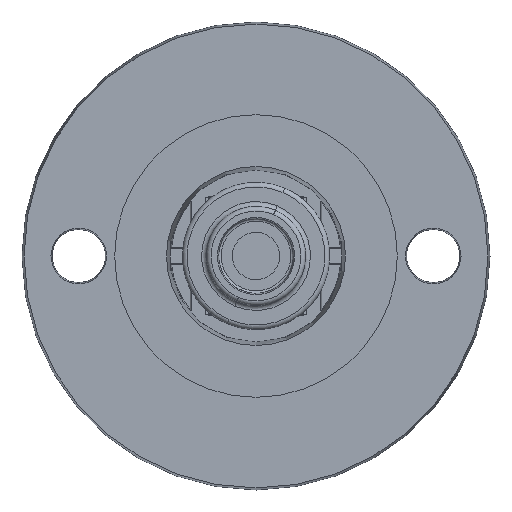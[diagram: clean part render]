
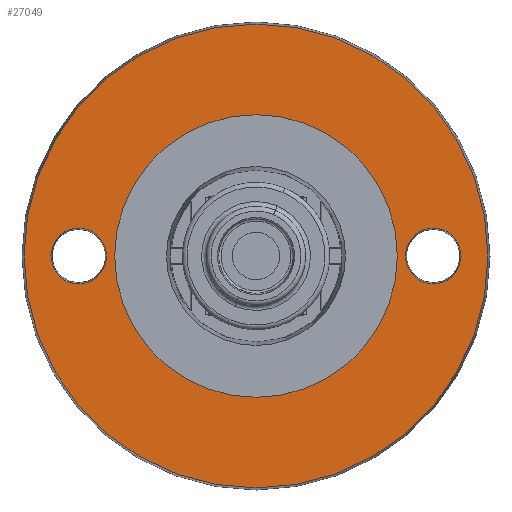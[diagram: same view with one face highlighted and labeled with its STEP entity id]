
A CAD part, front view. The second image highlights one B-rep face of the part: STEP entity #27049.
In plain terms, the highlighted planar face has unit normal (0, -1, 0).
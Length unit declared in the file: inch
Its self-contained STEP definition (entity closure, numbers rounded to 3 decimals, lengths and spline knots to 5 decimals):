
#158 = ORIENTED_EDGE ( 'NONE', *, *, #5605, .F. ) ;
#534 = DIRECTION ( 'NONE',  ( 0., 0., -1. ) ) ;
#637 = FACE_BOUND ( 'NONE', #3822, .T. ) ;
#927 = DIRECTION ( 'NONE',  ( 0., 0., -1. ) ) ;
#1038 = VERTEX_POINT ( 'NONE', #11671 ) ;
#1077 = DIRECTION ( 'NONE',  ( 0., 0., -1. ) ) ;
#1342 = FACE_BOUND ( 'NONE', #28409, .T. ) ;
#2369 = EDGE_CURVE ( 'NONE', #23006, #23633, #27325, .T. ) ;
#2861 = AXIS2_PLACEMENT_3D ( 'NONE', #27153, #14062, #927 ) ;
#2924 = EDGE_LOOP ( 'NONE', ( #3829, #20403 ) ) ;
#3424 = CARTESIAN_POINT ( 'NONE',  ( -0.375, 0.02, -0.05868 ) ) ;
#3822 = EDGE_LOOP ( 'NONE', ( #24073, #158 ) ) ;
#3829 = ORIENTED_EDGE ( 'NONE', *, *, #26376, .T. ) ;
#4177 = ORIENTED_EDGE ( 'NONE', *, *, #2369, .F. ) ;
#4901 = CARTESIAN_POINT ( 'NONE',  ( 0., 0.02, -0.25818 ) ) ;
#5046 = DIRECTION ( 'NONE',  ( 0., -1., 0. ) ) ;
#5605 = EDGE_CURVE ( 'NONE', #7851, #11739, #9807, .T. ) ;
#5678 = CARTESIAN_POINT ( 'NONE',  ( 0., 0.02, 0. ) ) ;
#5822 = AXIS2_PLACEMENT_3D ( 'NONE', #11186, #26477, #13392 ) ;
#6455 = FACE_BOUND ( 'NONE', #27841, .T. ) ;
#7192 = AXIS2_PLACEMENT_3D ( 'NONE', #25658, #12572, #27858 ) ;
#7676 = DIRECTION ( 'NONE',  ( 0., -1., 0. ) ) ;
#7851 = VERTEX_POINT ( 'NONE', #14384 ) ;
#7869 = DIRECTION ( 'NONE',  ( 0., 0., -1. ) ) ;
#8843 = AXIS2_PLACEMENT_3D ( 'NONE', #27304, #14219, #1077 ) ;
#8979 = EDGE_CURVE ( 'NONE', #23633, #23006, #23282, .T. ) ;
#9807 = CIRCLE ( 'NONE', #7192, 0.05868 ) ;
#11186 = CARTESIAN_POINT ( 'NONE',  ( 0., 0.02, 0. ) ) ;
#11199 = CARTESIAN_POINT ( 'NONE',  ( 0., 0.02, 0. ) ) ;
#11318 = CIRCLE ( 'NONE', #23387, 0.05868 ) ;
#11671 = CARTESIAN_POINT ( 'NONE',  ( 0., 0.02, 0.49063 ) ) ;
#11739 = VERTEX_POINT ( 'NONE', #12160 ) ;
#12160 = CARTESIAN_POINT ( 'NONE',  ( 0.375, 0.02, -0.05868 ) ) ;
#12572 = DIRECTION ( 'NONE',  ( 0., -1., 0. ) ) ;
#13141 = VERTEX_POINT ( 'NONE', #3424 ) ;
#13392 = DIRECTION ( 'NONE',  ( 0., 0., -1. ) ) ;
#13398 = VERTEX_POINT ( 'NONE', #24259 ) ;
#13406 = DIRECTION ( 'NONE',  ( 0., 0., -1. ) ) ;
#13679 = DIRECTION ( 'NONE',  ( 0., -1., 0. ) ) ;
#14062 = DIRECTION ( 'NONE',  ( 0., -1., 0. ) ) ;
#14130 = CARTESIAN_POINT ( 'NONE',  ( 0., 0.02, 0.25818 ) ) ;
#14219 = DIRECTION ( 'NONE',  ( 0., -1., 0. ) ) ;
#14384 = CARTESIAN_POINT ( 'NONE',  ( 0.375, 0.02, 0.05868 ) ) ;
#14424 = AXIS2_PLACEMENT_3D ( 'NONE', #11199, #26489, #13406 ) ;
#14757 = ORIENTED_EDGE ( 'NONE', *, *, #23733, .F. ) ;
#15368 = EDGE_CURVE ( 'NONE', #11739, #7851, #25774, .T. ) ;
#17425 = FACE_OUTER_BOUND ( 'NONE', #2924, .T. ) ;
#18024 = CIRCLE ( 'NONE', #5822, 0.49063 ) ;
#18186 = CARTESIAN_POINT ( 'NONE',  ( -0.375, 0.02, 0. ) ) ;
#18431 = ORIENTED_EDGE ( 'NONE', *, *, #20371, .F. ) ;
#18900 = CIRCLE ( 'NONE', #22073, 0.49063 ) ;
#19854 = VERTEX_POINT ( 'NONE', #26526 ) ;
#20362 = DIRECTION ( 'NONE',  ( 0., 0., -1. ) ) ;
#20371 = EDGE_CURVE ( 'NONE', #13141, #13398, #11318, .T. ) ;
#20403 = ORIENTED_EDGE ( 'NONE', *, *, #28097, .T. ) ;
#20792 = CARTESIAN_POINT ( 'NONE',  ( 0., 0.02, 0. ) ) ;
#20880 = PLANE ( 'NONE',  #25238 ) ;
#20976 = DIRECTION ( 'NONE',  ( 0., -1., 0. ) ) ;
#21979 = CIRCLE ( 'NONE', #8843, 0.05868 ) ;
#22073 = AXIS2_PLACEMENT_3D ( 'NONE', #26745, #13679, #534 ) ;
#22981 = DIRECTION ( 'NONE',  ( 0., 0., -1. ) ) ;
#23006 = VERTEX_POINT ( 'NONE', #14130 ) ;
#23061 = AXIS2_PLACEMENT_3D ( 'NONE', #20792, #7676, #22981 ) ;
#23282 = CIRCLE ( 'NONE', #23061, 0.25818 ) ;
#23387 = AXIS2_PLACEMENT_3D ( 'NONE', #18186, #5046, #20362 ) ;
#23633 = VERTEX_POINT ( 'NONE', #4901 ) ;
#23733 = EDGE_CURVE ( 'NONE', #13398, #13141, #21979, .T. ) ;
#24073 = ORIENTED_EDGE ( 'NONE', *, *, #15368, .F. ) ;
#24259 = CARTESIAN_POINT ( 'NONE',  ( -0.375, 0.02, 0.05868 ) ) ;
#25238 = AXIS2_PLACEMENT_3D ( 'NONE', #5678, #20976, #7869 ) ;
#25658 = CARTESIAN_POINT ( 'NONE',  ( 0.375, 0.02, 0. ) ) ;
#25774 = CIRCLE ( 'NONE', #2861, 0.05868 ) ;
#26376 = EDGE_CURVE ( 'NONE', #19854, #1038, #18900, .T. ) ;
#26477 = DIRECTION ( 'NONE',  ( 0., -1., 0. ) ) ;
#26489 = DIRECTION ( 'NONE',  ( 0., -1., 0. ) ) ;
#26526 = CARTESIAN_POINT ( 'NONE',  ( 0., 0.02, -0.49063 ) ) ;
#26745 = CARTESIAN_POINT ( 'NONE',  ( 0., 0.02, 0. ) ) ;
#27049 = ADVANCED_FACE ( 'NONE', ( #637, #17425, #1342, #6455 ), #20880, .T. ) ;
#27153 = CARTESIAN_POINT ( 'NONE',  ( 0.375, 0.02, 0. ) ) ;
#27304 = CARTESIAN_POINT ( 'NONE',  ( -0.375, 0.02, 0. ) ) ;
#27325 = CIRCLE ( 'NONE', #14424, 0.25818 ) ;
#27841 = EDGE_LOOP ( 'NONE', ( #18431, #14757 ) ) ;
#27858 = DIRECTION ( 'NONE',  ( 0., 0., -1. ) ) ;
#27975 = ORIENTED_EDGE ( 'NONE', *, *, #8979, .F. ) ;
#28097 = EDGE_CURVE ( 'NONE', #1038, #19854, #18024, .T. ) ;
#28409 = EDGE_LOOP ( 'NONE', ( #27975, #4177 ) ) ;
